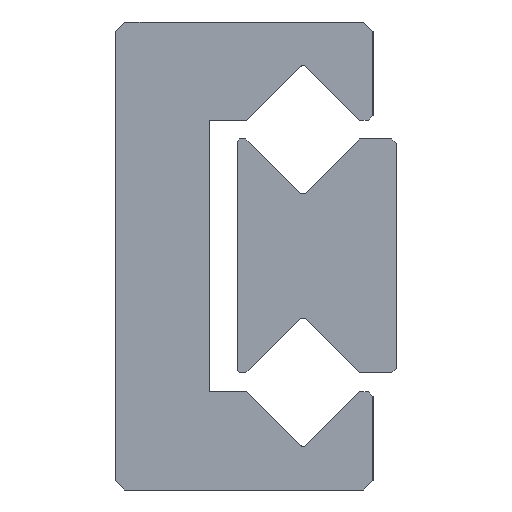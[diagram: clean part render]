
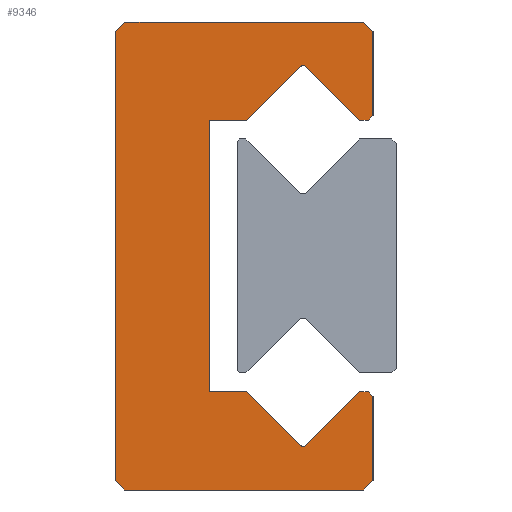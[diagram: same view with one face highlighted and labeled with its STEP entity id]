
A CAD part, left-side view. The second image highlights one B-rep face of the part: STEP entity #9346.
In plain terms, the highlighted planar face has unit normal (-1, 0, 0).
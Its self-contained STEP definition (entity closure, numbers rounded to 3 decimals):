
#298=CIRCLE('',#10139,0.1);
#304=CIRCLE('',#10151,0.1);
#1564=ORIENTED_EDGE('',*,*,#3904,.F.);
#1565=ORIENTED_EDGE('',*,*,#4358,.F.);
#1566=ORIENTED_EDGE('',*,*,#4351,.F.);
#1567=ORIENTED_EDGE('',*,*,#4348,.F.);
#1568=ORIENTED_EDGE('',*,*,#4345,.F.);
#1569=ORIENTED_EDGE('',*,*,#4342,.F.);
#1570=ORIENTED_EDGE('',*,*,#4339,.F.);
#1571=ORIENTED_EDGE('',*,*,#4336,.F.);
#1572=ORIENTED_EDGE('',*,*,#4333,.F.);
#1573=ORIENTED_EDGE('',*,*,#4330,.T.);
#1574=ORIENTED_EDGE('',*,*,#4327,.F.);
#1575=ORIENTED_EDGE('',*,*,#4324,.F.);
#1576=ORIENTED_EDGE('',*,*,#4321,.F.);
#1577=ORIENTED_EDGE('',*,*,#4314,.F.);
#1578=ORIENTED_EDGE('',*,*,#4311,.F.);
#1579=ORIENTED_EDGE('',*,*,#4308,.T.);
#1580=ORIENTED_EDGE('',*,*,#4305,.F.);
#1581=ORIENTED_EDGE('',*,*,#4302,.F.);
#1582=ORIENTED_EDGE('',*,*,#4299,.F.);
#1583=ORIENTED_EDGE('',*,*,#4296,.F.);
#1584=ORIENTED_EDGE('',*,*,#4293,.F.);
#1585=ORIENTED_EDGE('',*,*,#3908,.F.);
#3904=EDGE_CURVE('',#5336,#5337,#6312,.T.);
#3908=EDGE_CURVE('',#5337,#5340,#6316,.T.);
#4293=EDGE_CURVE('',#5340,#5724,#6453,.T.);
#4296=EDGE_CURVE('',#5724,#5726,#6456,.T.);
#4299=EDGE_CURVE('',#5726,#5728,#6459,.T.);
#4302=EDGE_CURVE('',#5728,#5730,#6462,.T.);
#4305=EDGE_CURVE('',#5730,#5732,#6465,.T.);
#4308=EDGE_CURVE('',#5734,#5732,#298,.T.);
#4311=EDGE_CURVE('',#5734,#5736,#6469,.T.);
#4314=EDGE_CURVE('',#5736,#5738,#6472,.T.);
#4321=EDGE_CURVE('',#5738,#5744,#6475,.T.);
#4324=EDGE_CURVE('',#5744,#5746,#6478,.T.);
#4327=EDGE_CURVE('',#5746,#5748,#6481,.T.);
#4330=EDGE_CURVE('',#5750,#5748,#304,.T.);
#4333=EDGE_CURVE('',#5750,#5752,#6485,.T.);
#4336=EDGE_CURVE('',#5752,#5754,#6488,.T.);
#4339=EDGE_CURVE('',#5754,#5756,#6491,.T.);
#4342=EDGE_CURVE('',#5756,#5758,#6494,.T.);
#4345=EDGE_CURVE('',#5758,#5760,#6497,.T.);
#4348=EDGE_CURVE('',#5760,#5762,#6500,.T.);
#4351=EDGE_CURVE('',#5762,#5764,#6503,.T.);
#4358=EDGE_CURVE('',#5764,#5336,#6506,.T.);
#5336=VERTEX_POINT('',#14213);
#5337=VERTEX_POINT('',#14214);
#5340=VERTEX_POINT('',#14222);
#5724=VERTEX_POINT('',#14992);
#5726=VERTEX_POINT('',#14998);
#5728=VERTEX_POINT('',#15004);
#5730=VERTEX_POINT('',#15010);
#5732=VERTEX_POINT('',#15016);
#5734=VERTEX_POINT('',#15022);
#5736=VERTEX_POINT('',#15028);
#5738=VERTEX_POINT('',#15034);
#5744=VERTEX_POINT('',#15048);
#5746=VERTEX_POINT('',#15054);
#5748=VERTEX_POINT('',#15060);
#5750=VERTEX_POINT('',#15066);
#5752=VERTEX_POINT('',#15072);
#5754=VERTEX_POINT('',#15078);
#5756=VERTEX_POINT('',#15084);
#5758=VERTEX_POINT('',#15090);
#5760=VERTEX_POINT('',#15096);
#5762=VERTEX_POINT('',#15102);
#5764=VERTEX_POINT('',#15108);
#6312=LINE('',#14212,#7148);
#6316=LINE('',#14221,#7152);
#6453=LINE('',#14991,#7289);
#6456=LINE('',#14997,#7292);
#6459=LINE('',#15003,#7295);
#6462=LINE('',#15009,#7298);
#6465=LINE('',#15015,#7301);
#6469=LINE('',#15027,#7305);
#6472=LINE('',#15033,#7308);
#6475=LINE('',#15047,#7311);
#6478=LINE('',#15053,#7314);
#6481=LINE('',#15059,#7317);
#6485=LINE('',#15071,#7321);
#6488=LINE('',#15077,#7324);
#6491=LINE('',#15083,#7327);
#6494=LINE('',#15089,#7330);
#6497=LINE('',#15095,#7333);
#6500=LINE('',#15101,#7336);
#6503=LINE('',#15107,#7339);
#6506=LINE('',#15121,#7342);
#7148=VECTOR('',#11103,1000.);
#7152=VECTOR('',#11109,1000.);
#7289=VECTOR('',#11744,1000.);
#7292=VECTOR('',#11749,1000.);
#7295=VECTOR('',#11754,1000.);
#7298=VECTOR('',#11759,1000.);
#7301=VECTOR('',#11764,1000.);
#7305=VECTOR('',#11776,1000.);
#7308=VECTOR('',#11781,1000.);
#7311=VECTOR('',#11794,1000.);
#7314=VECTOR('',#11799,1000.);
#7317=VECTOR('',#11804,1000.);
#7321=VECTOR('',#11816,1000.);
#7324=VECTOR('',#11821,1000.);
#7327=VECTOR('',#11826,1000.);
#7330=VECTOR('',#11831,1000.);
#7333=VECTOR('',#11836,1000.);
#7336=VECTOR('',#11841,1000.);
#7339=VECTOR('',#11846,1000.);
#7342=VECTOR('',#11859,1000.);
#8026=EDGE_LOOP('',(#1564,#1565,#1566,#1567,#1568,#1569,#1570,#1571,#1572,
#1573,#1574,#1575,#1576,#1577,#1578,#1579,#1580,#1581,#1582,#1583,#1584,
#1585));
#8600=FACE_BOUND('',#8026,.T.);
#9125=PLANE('',#10166);
#9346=ADVANCED_FACE('',(#8600),#9125,.F.);
#10139=AXIS2_PLACEMENT_3D('',#15021,#11769,#11770);
#10151=AXIS2_PLACEMENT_3D('',#15065,#11809,#11810);
#10166=AXIS2_PLACEMENT_3D('',#15124,#11863,#11864);
#11103=DIRECTION('',(0.,-0.707,0.707));
#11109=DIRECTION('',(0.,-1.,0.));
#11744=DIRECTION('',(0.,-0.707,-0.707));
#11749=DIRECTION('',(0.,0.,-1.));
#11754=DIRECTION('',(0.,0.707,-0.707));
#11759=DIRECTION('',(0.,1.,0.));
#11764=DIRECTION('',(0.,0.707,0.707));
#11769=DIRECTION('',(1.,0.,0.));
#11770=DIRECTION('',(0.,0.,-1.));
#11776=DIRECTION('',(0.,0.707,-0.707));
#11781=DIRECTION('',(0.,1.,0.));
#11794=DIRECTION('',(0.,0.,-1.));
#11799=DIRECTION('',(0.,-1.,0.));
#11804=DIRECTION('',(0.,-0.707,-0.707));
#11809=DIRECTION('',(1.,0.,0.));
#11810=DIRECTION('',(0.,0.,-1.));
#11816=DIRECTION('',(0.,-0.707,0.707));
#11821=DIRECTION('',(0.,-1.,0.));
#11826=DIRECTION('',(0.,-0.707,-0.707));
#11831=DIRECTION('',(0.,0.,-1.));
#11836=DIRECTION('',(0.,0.707,-0.707));
#11841=DIRECTION('',(0.,1.,0.));
#11846=DIRECTION('',(0.,0.707,0.707));
#11859=DIRECTION('',(0.,0.,1.));
#11863=DIRECTION('',(1.,0.,0.));
#11864=DIRECTION('',(0.,0.,-1.));
#14212=CARTESIAN_POINT('',(-17.5,5.5,4.8));
#14213=CARTESIAN_POINT('',(-17.5,5.5,4.8));
#14214=CARTESIAN_POINT('',(-17.5,5.3,5.));
#14221=CARTESIAN_POINT('',(-17.5,5.3,5.));
#14222=CARTESIAN_POINT('',(-17.5,0.2,5.));
#14991=CARTESIAN_POINT('',(-17.5,0.2,5.));
#14992=CARTESIAN_POINT('',(-17.5,0.,4.8));
#14997=CARTESIAN_POINT('',(-17.5,0.,4.8));
#14998=CARTESIAN_POINT('',(-17.5,0.,3.));
#15003=CARTESIAN_POINT('',(-17.5,0.,3.));
#15004=CARTESIAN_POINT('',(-17.5,0.1,2.9));
#15009=CARTESIAN_POINT('',(-17.5,0.1,2.9));
#15010=CARTESIAN_POINT('',(-17.5,0.286,2.9));
#15015=CARTESIAN_POINT('',(-17.5,0.286,2.9));
#15016=CARTESIAN_POINT('',(-17.5,1.422,4.036));
#15021=CARTESIAN_POINT('',(-17.5,1.493,3.965));
#15022=CARTESIAN_POINT('',(-17.5,1.563,4.036));
#15027=CARTESIAN_POINT('',(-17.5,1.563,4.036));
#15028=CARTESIAN_POINT('',(-17.5,2.699,2.9));
#15033=CARTESIAN_POINT('',(-17.5,2.699,2.9));
#15034=CARTESIAN_POINT('',(-17.5,3.5,2.9));
#15047=CARTESIAN_POINT('',(-17.5,3.5,2.9));
#15048=CARTESIAN_POINT('',(-17.5,3.5,-2.9));
#15053=CARTESIAN_POINT('',(-17.5,3.5,-2.9));
#15054=CARTESIAN_POINT('',(-17.5,2.699,-2.9));
#15059=CARTESIAN_POINT('',(-17.5,2.699,-2.9));
#15060=CARTESIAN_POINT('',(-17.5,1.563,-4.036));
#15065=CARTESIAN_POINT('',(-17.5,1.493,-3.965));
#15066=CARTESIAN_POINT('',(-17.5,1.422,-4.036));
#15071=CARTESIAN_POINT('',(-17.5,1.422,-4.036));
#15072=CARTESIAN_POINT('',(-17.5,0.286,-2.9));
#15077=CARTESIAN_POINT('',(-17.5,0.286,-2.9));
#15078=CARTESIAN_POINT('',(-17.5,0.1,-2.9));
#15083=CARTESIAN_POINT('',(-17.5,0.1,-2.9));
#15084=CARTESIAN_POINT('',(-17.5,0.,-3.));
#15089=CARTESIAN_POINT('',(-17.5,0.,-3.));
#15090=CARTESIAN_POINT('',(-17.5,0.,-4.8));
#15095=CARTESIAN_POINT('',(-17.5,0.,-4.8));
#15096=CARTESIAN_POINT('',(-17.5,0.2,-5.));
#15101=CARTESIAN_POINT('',(-17.5,0.2,-5.));
#15102=CARTESIAN_POINT('',(-17.5,5.3,-5.));
#15107=CARTESIAN_POINT('',(-17.5,5.3,-5.));
#15108=CARTESIAN_POINT('',(-17.5,5.5,-4.8));
#15121=CARTESIAN_POINT('',(-17.5,5.5,-4.8));
#15124=CARTESIAN_POINT('',(-17.5,1.493,3.965));
